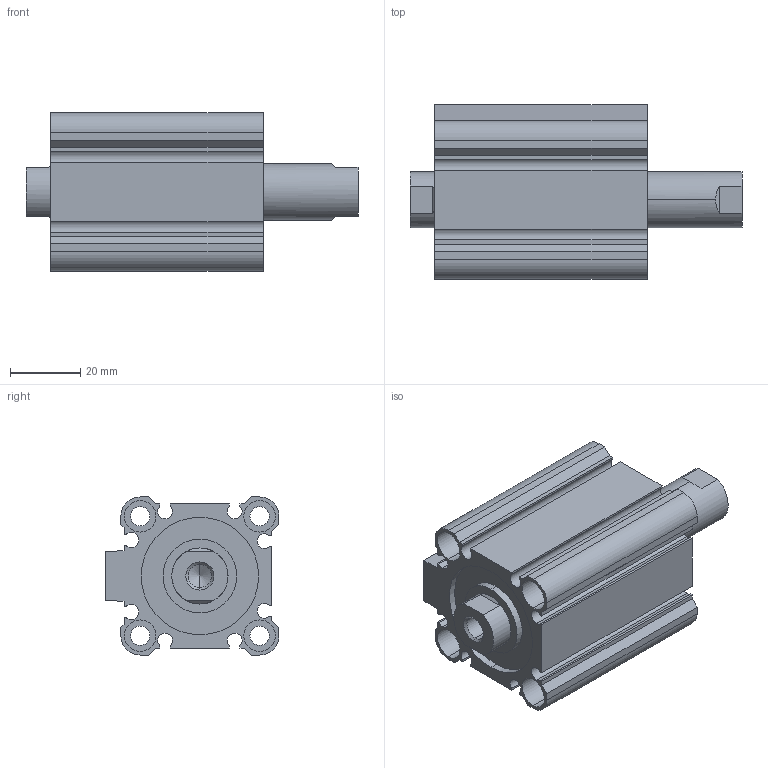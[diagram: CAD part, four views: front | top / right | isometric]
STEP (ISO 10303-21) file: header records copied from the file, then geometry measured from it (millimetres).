
FILE_DESCRIPTION (( 'STEP AP203' ), '1' );
FILE_NAME ('CCMB32-20F-P.STEP', '2020-08-05T11:13:20', ( '' ), ( '' ), 'SwSTEP 2.0', 'SolidWorks 2019', '' );
FILE_SCHEMA (( 'CONFIG_CONTROL_DESIGN' ));
Length unit declared in the file: millimetre
Products named in the file (1): CCMB32-20F-P
Bounding box: 94.5 x 49.5 x 45 mm (x, y, z)
Volume: 89666.8 mm3; surface area: 38241.7 mm2
Topology: 2 solids, 2 shells, 164 faces, 414 edges, 270 vertices
Faces by surface type: plane 78, cylinder 74, cone 12
Entity records: 5025 total; most frequent: DIRECTION 888, CARTESIAN_POINT 869, ORIENTED_EDGE 820, EDGE_CURVE 410, AXIS2_PLACEMENT_3D 321, VERTEX_POINT 270, LINE 246, VECTOR 246
